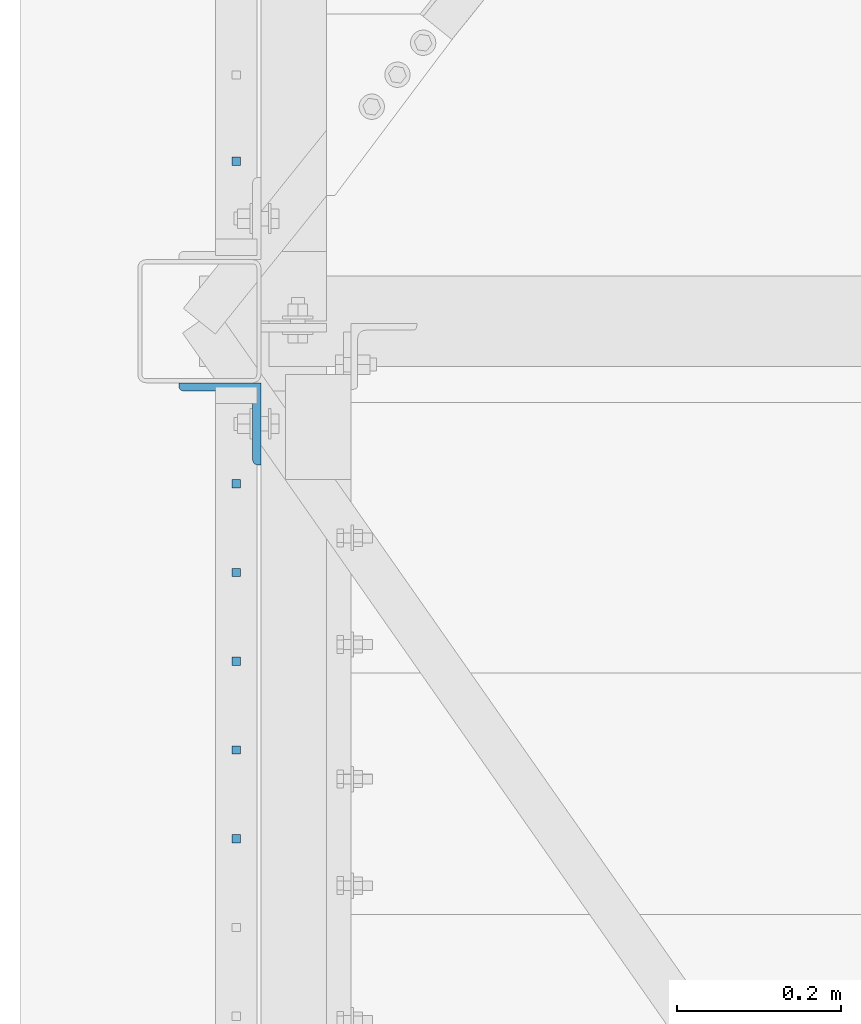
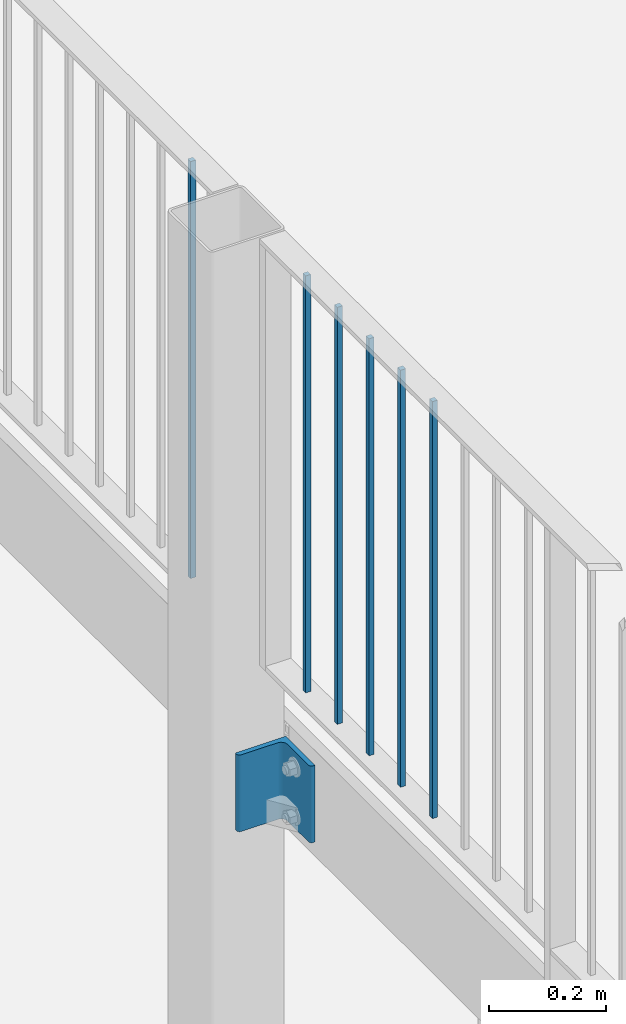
# One storey, part 43 of 78: 7 beams, 3 elements without a shape of their own.
"""IFC2X3 building model written with IfcOpenShell, lengths in millimetres."""

from ifc_helpers import new_model, si_unit, frame, origin_with_axes, origin_2d_with_axis, place, context, subcontext, project, spatial, rectangle, l_section, extrude, clip, halfspace, material, type_object, element, aggregate, save


model = new_model("IFC2X3")

# Units and contexts
model_context = context("Model", 3, precision=1e-05, world=origin_with_axes())
body_context = subcontext(model_context, "Body", "Model", "MODEL_VIEW")
ifc_project = project(units=[si_unit("LENGTHUNIT", "METRE", prefix="MILLI"), si_unit("AREAUNIT", "SQUARE_METRE"), si_unit("VOLUMEUNIT", "CUBIC_METRE"), si_unit("MASSUNIT", "GRAM", prefix="KILO"), si_unit("TIMEUNIT", "SECOND"), si_unit("PLANEANGLEUNIT", "RADIAN"), si_unit("SOLIDANGLEUNIT", "STERADIAN"), si_unit("THERMODYNAMICTEMPERATUREUNIT", "DEGREE_CELSIUS"), si_unit("LUMINOUSINTENSITYUNIT", "LUMEN")], contexts=[model_context])

# Site, building, storey
site_placement = place(None, origin_with_axes())
site = spatial("IfcSite", under=ifc_project, at=site_placement, Name="Site", CompositionType="ELEMENT")
building_placement = place(site_placement, origin_with_axes())
building = spatial("IfcBuilding", under=site, at=building_placement, Name="Undefined", CompositionType="ELEMENT")
storey_placement = place(building_placement, origin_with_axes())
storey = spatial("IfcBuildingStorey", under=building, at=storey_placement, Name="Undefined", CompositionType="ELEMENT", Elevation=0.0)

# Assembly, beam
assembly_1_placement = place(storey_placement, origin_with_axes())
assembly_1 = element("IfcElementAssembly", 1, at=assembly_1_placement, inside=storey, Name="MAIN_COURANTE", AssemblyPlace="NOTDEFINED", PredefinedType="RIGID_FRAME")
ifc_material = material(Name="STEEL/S235JR")
beam_type_1 = type_object("IfcBeamType", Name="PL10*10", PredefinedType="NOTDEFINED")
beam_1_placement = place(assembly_1_placement, frame((-35341.4299999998, 10303.0, 157695.04), z_axis=(1.0, 0.0, 0.0), x_axis=(0.0, 0.0, -1.0)))
beam_1 = element("IfcBeam", 2, at=beam_1_placement, type_object=beam_type_1, material=ifc_material, Name="LISSE", ObjectType="PL10*10", context=body_context, shape_type="Clipping", body=[
    clip(clip(extrude(rectangle(XDim=10.0, YDim=10.0, at=origin_2d_with_axis()), frame((880.0, 0.0, 0.0), z_axis=(-1.0, 0.0, 0.0), x_axis=(0.0, -1.0, 0.0)), (0.0, 0.0, 1.0), 880.0), halfspace(frame((875.0, 0.0, 1005.0), z_axis=(1.0, 0.0, 0.0), x_axis=(0.0, 1.0, 0.0)), False)), halfspace(frame((5.0, 0.0, 1005.0), z_axis=(-1.0, 0.0, 0.0), x_axis=(0.0, -1.0, 0.0)), False)),
])
aggregate(assembly_1, [beam_1])

# Assembly, beams
assembly_2_placement = place(storey_placement, origin_with_axes())
assembly_2 = element("IfcElementAssembly", 3, at=assembly_2_placement, inside=storey, Name="MAIN_COURANTE", AssemblyPlace="NOTDEFINED", PredefinedType="RIGID_FRAME")
beam_2_placement = place(assembly_2_placement, frame((-35341.43, 9477.25925925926, 157695.04), z_axis=(1.0, 0.0, 0.0), x_axis=(0.0, 0.0, -1.0)))
beam_2 = element("IfcBeam", 4, at=beam_2_placement, type_object=beam_type_1, material=ifc_material, Name="LISSE", ObjectType="PL10*10", context=body_context, shape_type="Clipping", body=[
    clip(clip(extrude(rectangle(XDim=10.0, YDim=10.0, at=origin_2d_with_axis()), frame((880.0, 0.0, 0.0), z_axis=(-1.0, 0.0, 0.0), x_axis=(0.0, -1.0, 0.0)), (0.0, 0.0, 1.0), 880.0), halfspace(frame((875.0, 0.0, 1005.0), z_axis=(1.0, 0.0, 0.0), x_axis=(0.0, 1.0, 0.0)), False)), halfspace(frame((5.0, 0.0, 1005.0), z_axis=(-1.0, 0.0, 0.0), x_axis=(0.0, -1.0, 0.0)), False)),
])
beam_3_placement = place(assembly_2_placement, frame((-35341.43, 9585.40740740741, 157695.04), z_axis=(1.0, 0.0, 0.0), x_axis=(0.0, 0.0, -1.0)))
beam_3 = element("IfcBeam", 5, at=beam_3_placement, type_object=beam_type_1, material=ifc_material, Name="LISSE", ObjectType="PL10*10", context=body_context, shape_type="Clipping", body=[
    clip(clip(extrude(rectangle(XDim=10.0, YDim=10.0, at=origin_2d_with_axis()), frame((880.0, 0.0, 0.0), z_axis=(-1.0, 0.0, 0.0), x_axis=(0.0, -1.0, 0.0)), (0.0, 0.0, 1.0), 880.0), halfspace(frame((875.0, 0.0, 1005.0), z_axis=(1.0, 0.0, 0.0), x_axis=(0.0, 1.0, 0.0)), False)), halfspace(frame((5.0, 0.0, 1005.0), z_axis=(-1.0, 0.0, 0.0), x_axis=(0.0, -1.0, 0.0)), False)),
])
beam_4_placement = place(assembly_2_placement, frame((-35341.43, 9693.55555555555, 157695.04), z_axis=(1.0, 0.0, 0.0), x_axis=(0.0, 0.0, -1.0)))
beam_4 = element("IfcBeam", 6, at=beam_4_placement, type_object=beam_type_1, material=ifc_material, Name="LISSE", ObjectType="PL10*10", context=body_context, shape_type="Clipping", body=[
    clip(clip(extrude(rectangle(XDim=10.0, YDim=10.0, at=origin_2d_with_axis()), frame((880.0, 0.0, 0.0), z_axis=(-1.0, 0.0, 0.0), x_axis=(0.0, -1.0, 0.0)), (0.0, 0.0, 1.0), 880.0), halfspace(frame((875.0, 0.0, 1005.0), z_axis=(1.0, 0.0, 0.0), x_axis=(0.0, 1.0, 0.0)), False)), halfspace(frame((5.0, 0.0, 1005.0), z_axis=(-1.0, 0.0, 0.0), x_axis=(0.0, -1.0, 0.0)), False)),
])
beam_5_placement = place(assembly_2_placement, frame((-35341.43, 9801.7037037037, 157695.04), z_axis=(1.0, 0.0, 0.0), x_axis=(0.0, 0.0, -1.0)))
beam_5 = element("IfcBeam", 7, at=beam_5_placement, type_object=beam_type_1, material=ifc_material, Name="LISSE", ObjectType="PL10*10", context=body_context, shape_type="Clipping", body=[
    clip(clip(extrude(rectangle(XDim=10.0, YDim=10.0, at=origin_2d_with_axis()), frame((880.0, 0.0, 0.0), z_axis=(-1.0, 0.0, 0.0), x_axis=(0.0, -1.0, 0.0)), (0.0, 0.0, 1.0), 880.0), halfspace(frame((875.0, 0.0, 1005.0), z_axis=(1.0, 0.0, 0.0), x_axis=(0.0, 1.0, 0.0)), False)), halfspace(frame((5.0, 0.0, 1005.0), z_axis=(-1.0, 0.0, 0.0), x_axis=(0.0, -1.0, 0.0)), False)),
])
beam_6_placement = place(assembly_2_placement, frame((-35341.43, 9909.85185185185, 157695.04), z_axis=(1.0, 0.0, 0.0), x_axis=(0.0, 0.0, -1.0)))
beam_6 = element("IfcBeam", 8, at=beam_6_placement, type_object=beam_type_1, material=ifc_material, Name="LISSE", ObjectType="PL10*10", context=body_context, shape_type="Clipping", body=[
    clip(clip(extrude(rectangle(XDim=10.0, YDim=10.0, at=origin_2d_with_axis()), frame((880.0, 0.0, 0.0), z_axis=(-1.0, 0.0, 0.0), x_axis=(0.0, -1.0, 0.0)), (0.0, 0.0, 1.0), 880.0), halfspace(frame((875.0, 0.0, 1005.0), z_axis=(1.0, 0.0, 0.0), x_axis=(0.0, 1.0, 0.0)), False)), halfspace(frame((5.0, 0.0, 1005.0), z_axis=(-1.0, 0.0, 0.0), x_axis=(0.0, -1.0, 0.0)), False)),
])
aggregate(assembly_2, [beam_2, beam_3, beam_4, beam_5, beam_6])

# Assembly, beam
assembly_3_placement = place(storey_placement, origin_with_axes())
assembly_3 = element("IfcElementAssembly", 9, at=assembly_3_placement, inside=storey, AssemblyPlace="NOTDEFINED", PredefinedType="RIGID_FRAME")
beam_type_2 = type_object("IfcBeamType", Name="L100*10", PredefinedType="NOTDEFINED")
beam_7_placement = place(assembly_3_placement, frame((-35361.43, 9983.0, 156640.04), z_axis=(0.0, -1.0, 0.0), x_axis=(0.0, 0.0, -1.0)))
beam_7 = element("IfcBeam", 10, at=beam_7_placement, type_object=beam_type_2, material=ifc_material, Name="CORNIERE", ObjectType="L100*10", context=body_context, shape_type="SweptSolid", body=[
    extrude(l_section(Depth=100.0, Width=100.0, Thickness=10.0, FilletRadius=12.0, EdgeRadius=6.0, at=origin_2d_with_axis()), frame((160.0, 0.0, 0.0), z_axis=(-1.0, 0.0, 0.0), x_axis=(0.0, -1.0, 0.0)), (0.0, 0.0, 1.0), 160.0),
])
aggregate(assembly_3, [beam_7])

save(model, "model.ifc")
